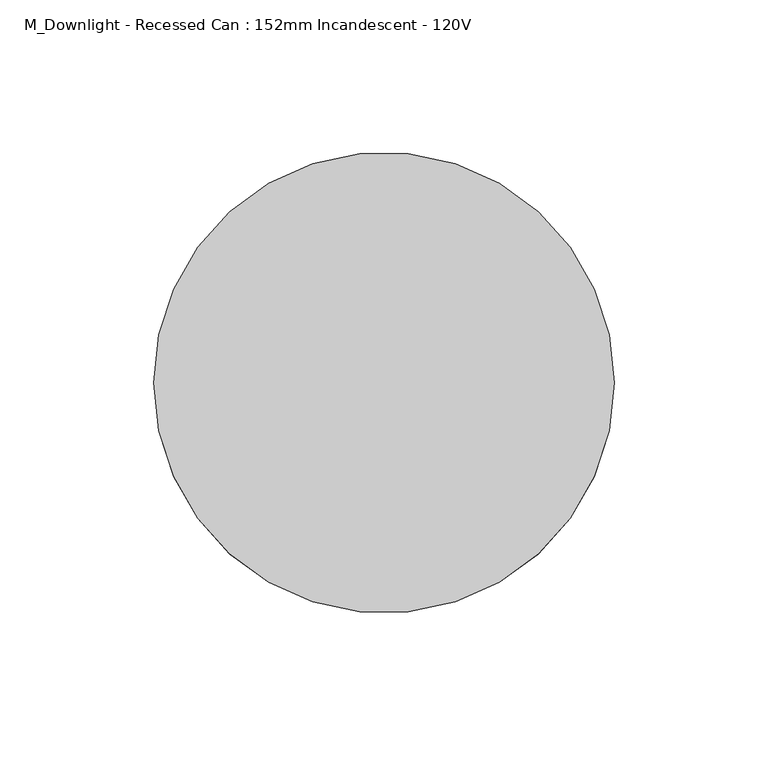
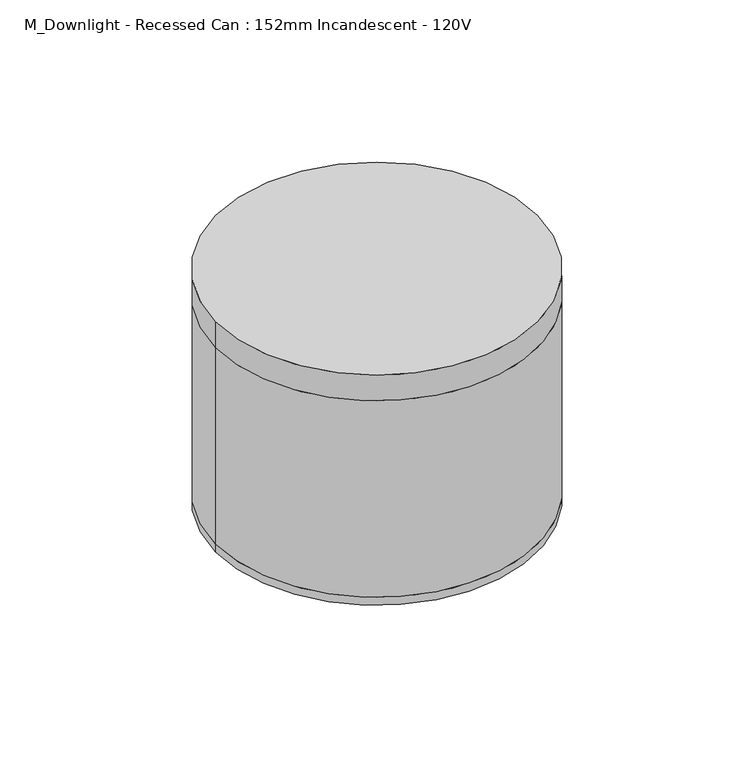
"""IFC4 building model written with IfcOpenShell, lengths in millimetres: light fixture geometry, M_Downlight - Recessed Can : 152mm Incandescent - 120V."""

import ifcopenshell
import ifcopenshell.guid

model = None  # the IFC model being written
_history = None  # IfcOwnerHistory: only IFC2X3 demands one
_inside = {}  # id of a spatial element -> (the spatial element, [elements in it])
_under = {}  # id of a project, library or spatial element -> (it, [spatial elements below it])
_declared = {}  # id of a project -> (the project, [libraries it declares])
_typed = {}  # id of a type object -> (the type object, [elements of that type])
_made_of = {}  # id of a material, layer set ... -> (it, [elements and type objects made of it])


def new_model(schema):
    """Start an empty IFC model of exactly this schema.

    Asked for "IFC4X3", IfcOpenShell would pick the latest addendum, in which some entities
    have other attributes; the version numbers below select the first issue.
    IFC2X3 requires an IfcOwnerHistory on every rooted entity: one is made here for all.
    """
    global model, _history
    if schema == "IFC4X3":
        model = ifcopenshell.file(schema_version=(4, 3, 0, 0))
    else:
        model = ifcopenshell.file(schema=schema)
    _inside.clear()
    _under.clear()
    _declared.clear()
    _typed.clear()
    _made_of.clear()
    _history = None
    if model.schema == "IFC2X3":
        org = make("IfcOrganization", Name="unknown")
        user = make(
            "IfcPersonAndOrganization",
            ThePerson=make("IfcPerson", FamilyName="unknown"),
            TheOrganization=org,
        )
        app = make(
            "IfcApplication",
            ApplicationDeveloper=org,
            Version="unknown",
            ApplicationFullName="unknown",
            ApplicationIdentifier="unknown",
        )
        _history = make(
            "IfcOwnerHistory",
            OwningUser=user,
            OwningApplication=app,
            ChangeAction="ADDED",
            CreationDate=0,
        )
    return model


def make(cls, **values):
    """One entity of the class cls with the attributes given. An attribute that is None is left unset."""
    return model.create_entity(
        cls, **{name: value for name, value in values.items() if value is not None}
    )


def rooted(cls, **values):
    """An entity with a GlobalId (a new one), such as an element, a storey or a relation."""
    return make(cls, GlobalId=ifcopenshell.guid.new(), OwnerHistory=_history, **values)


def si_unit(unit_type, name, prefix=None):
    """IfcSIUnit, for example si_unit("LENGTHUNIT", "METRE", prefix="MILLI")."""
    return make("IfcSIUnit", UnitType=unit_type, Prefix=prefix, Name=name)


def assignment(units):
    """IfcUnitAssignment: the units of a project."""
    return None if units is None else make("IfcUnitAssignment", Units=units)


def point(xyz):
    """IfcCartesianPoint."""
    return None if xyz is None else make("IfcCartesianPoint", Coordinates=xyz)


def direction(xyz):
    """IfcDirection."""
    return None if xyz is None else make("IfcDirection", DirectionRatios=xyz)


def frame(location, z_axis=None, x_axis=None):
    """IfcAxis2Placement3D, a coordinate frame: its origin and axes. An axis left out is left unset."""
    return make(
        "IfcAxis2Placement3D",
        Location=point(location),
        Axis=direction(z_axis),
        RefDirection=direction(x_axis),
    )


def frame_2d(location, x_axis=None):
    """IfcAxis2Placement2D, a coordinate frame in the plane: its origin and x axis."""
    return make(
        "IfcAxis2Placement2D", Location=point(location), RefDirection=direction(x_axis)
    )


def origin():
    """The frame at (0, 0, 0) with its axes left unset."""
    return frame((0.0, 0.0, 0.0))


def origin_2d():
    """The frame at (0, 0) in the plane with its x axis left unset."""
    return frame_2d((0.0, 0.0))


def place(relative_to, where):
    """IfcLocalPlacement: puts the frame where relative to a parent placement (None: the world)."""
    return make(
        "IfcLocalPlacement", PlacementRelTo=relative_to, RelativePlacement=where
    )


def context(
    kind, dimensions, precision=None, world=None, true_north=None, identifier=None
):
    """IfcGeometricRepresentationContext, for example the 3D "Model" context."""
    return make(
        "IfcGeometricRepresentationContext",
        ContextIdentifier=identifier,
        ContextType=kind,
        CoordinateSpaceDimension=dimensions,
        Precision=precision,
        WorldCoordinateSystem=world,
        TrueNorth=true_north,
    )


def project(units=None, contexts=None):
    """IfcProject with its units and contexts."""
    return rooted(
        "IfcProject",
        Name="project",
        RepresentationContexts=contexts,
        UnitsInContext=assignment(units),
    )


def spatial(cls, under=None, at=None, **own):
    """A site, building, storey or space (cls), placed at a placement, below another one or the project."""
    s = rooted(cls, ObjectPlacement=at, **own)
    if under is not None:
        _under.setdefault(under.id(), (under, []))[1].append(s)
    return s


def circle_curve(where, radius):
    """IfcCircle in the frame where."""
    return make("IfcCircle", Position=where, Radius=radius)


def trimmed(basis, trim1, trim2, sense, master):
    """IfcTrimmedCurve: the piece of a basis curve between two trims."""
    return make(
        "IfcTrimmedCurve",
        BasisCurve=basis,
        Trim1=trim1,
        Trim2=trim2,
        SenseAgreement=sense,
        MasterRepresentation=master,
    )


def segment(curve, same_sense, transition):
    """IfcCompositeCurveSegment."""
    return make(
        "IfcCompositeCurveSegment",
        Transition=transition,
        SameSense=same_sense,
        ParentCurve=curve,
    )


def composite_curve(segments, self_intersect=None):
    """IfcCompositeCurve: segments joined end to end."""
    return make("IfcCompositeCurve", Segments=segments, SelfIntersect=self_intersect)


def outline(outer, holes=None, kind="AREA"):
    """IfcArbitraryClosedProfileDef: a profile drawn as a closed curve; with holes, ...WithVoids."""
    if holes is None:
        return make("IfcArbitraryClosedProfileDef", ProfileType=kind, OuterCurve=outer)
    return make(
        "IfcArbitraryProfileDefWithVoids",
        ProfileType=kind,
        OuterCurve=outer,
        InnerCurves=holes,
    )


def extrude(swept, where, along, depth):
    """IfcExtrudedAreaSolid: the profile swept, set in the frame where, extruded along a direction by depth."""
    return make(
        "IfcExtrudedAreaSolid",
        SweptArea=swept,
        Position=where,
        ExtrudedDirection=direction(along),
        Depth=depth,
    )


def shape(context_of_items, identifier, shape_type, items):
    """IfcShapeRepresentation: the items that make up one representation, for example the "Body"."""
    return make(
        "IfcShapeRepresentation",
        ContextOfItems=context_of_items,
        RepresentationIdentifier=identifier,
        RepresentationType=shape_type,
        Items=items,
    )


def source(mapping_origin, context_of_items, identifier, shape_type, items):
    """IfcRepresentationMap: a shape defined once, which mapped items show again and again."""
    return make(
        "IfcRepresentationMap",
        MappingOrigin=mapping_origin,
        MappedRepresentation=shape(context_of_items, identifier, shape_type, items),
    )


def transform(
    local_origin,
    x_axis=None,
    y_axis=None,
    z_axis=None,
    scale=None,
    scale2=None,
    scale3=None,
    uniform=True,
):
    """IfcCartesianTransformationOperator3D, or its non-uniform kind. x_axis, y_axis, z_axis: its Axis1, 2, 3."""
    if uniform:
        return make(
            "IfcCartesianTransformationOperator3D",
            Axis1=direction(x_axis),
            Axis2=direction(y_axis),
            LocalOrigin=point(local_origin),
            Scale=scale,
            Axis3=direction(z_axis),
        )
    return make(
        "IfcCartesianTransformationOperator3DnonUniform",
        Axis1=direction(x_axis),
        Axis2=direction(y_axis),
        LocalOrigin=point(local_origin),
        Scale=scale,
        Axis3=direction(z_axis),
        Scale2=scale2,
        Scale3=scale3,
    )


def mapped(mapping_source, mapping_target):
    """IfcMappedItem: shows the shape of a source again, moved by a transform."""
    return make(
        "IfcMappedItem", MappingSource=mapping_source, MappingTarget=mapping_target
    )


def made_of(thing, what):
    """Note that an element or type object is made of a material, layer set ...; save() writes the relation."""
    if what is not None:
        _made_of.setdefault(what.id(), (what, []))[1].append(thing)
    return thing


def element(
    cls,
    number,
    at=None,
    inside=None,
    cuts=None,
    type_object=None,
    material=None,
    context=None,
    identifier="Body",
    shape_type=None,
    held_by="IfcProductDefinitionShape",
    body=None,
    shapes=None,
    **own,
):
    """One element of the class cls, such as IfcWall. Its Tag is "e" and its number.

    at: its placement. inside: the storey or other place that contains it. cuts: it is an
    opening in that element (IfcRelVoidsElement). A single representation is given by context,
    identifier, shape_type and body (its items); several are given by shapes. held_by: the class
    of the entity that holds the representations. save() writes the other relations.
    """
    e = rooted(cls, Tag="e%d" % number, ObjectPlacement=at, **own)
    if body is not None:
        shapes = [shape(context, identifier, shape_type, body)]
    if shapes is not None:
        e.Representation = make(held_by, Representations=shapes)
    if inside is not None:
        _inside.setdefault(inside.id(), (inside, []))[1].append(e)
    if cuts is not None:
        rooted(
            "IfcRelVoidsElement", RelatingBuildingElement=cuts, RelatedOpeningElement=e
        )
    if type_object is not None:
        _typed.setdefault(type_object.id(), (type_object, []))[1].append(e)
    return made_of(e, material)


def aggregate(whole, parts):
    """IfcRelAggregates: a whole, such as a stair, and the parts it consists of."""
    return rooted("IfcRelAggregates", RelatingObject=whole, RelatedObjects=parts)


def save(model, path):
    """Write the relations noted so far, then the file.

    IfcRelAggregates (storeys below a building ...), IfcRelContainedInSpatialStructure (elements
    in a storey), IfcRelDefinesByType, IfcRelAssociatesMaterial and IfcRelDeclares: one each for
    every whole, place, type object, material and project.
    """
    for whole, parts in _under.values():
        aggregate(whole, parts)
    for where, things in _inside.values():
        rooted(
            "IfcRelContainedInSpatialStructure",
            RelatedElements=things,
            RelatingStructure=where,
        )
    for kind, things in _typed.values():
        rooted("IfcRelDefinesByType", RelatedObjects=things, RelatingType=kind)
    for what, things in _made_of.values():
        rooted("IfcRelAssociatesMaterial", RelatedObjects=things, RelatingMaterial=what)
    for by, libraries in _declared.values():
        rooted("IfcRelDeclares", RelatingContext=by, RelatedDefinitions=libraries)
    model.write(path)


def m_downlight_recessed_can_152mm_incandescent_120v_aa052045(model_context):
    return source(origin(), model_context, "Body", "SweptSolid", [
        extrude(outline(composite_curve([segment(trimmed(circle_curve(origin_2d(), 75.0), [point((-75.0, 0.0))], [point((75.0, 0.0))], False, "CARTESIAN"), True, "CONTINUOUS"), segment(trimmed(circle_curve(origin_2d(), 75.0), [point((75.0, 0.0))], [point((-75.0, 0.0))], False, "CARTESIAN"), True, "CONTINUOUS")], self_intersect=False)), frame((0.0, 0.0, 2539.3367548), z_axis=(0.0, 0.0, 1.0), x_axis=(1.0, 0.0, 0.0)), (0.0, 0.0, 1.0), 12.7),
        extrude(outline(composite_curve([segment(trimmed(circle_curve(origin_2d(), 75.0), [point((-75.0, 0.0))], [point((75.0, 0.0))], False, "CARTESIAN"), True, "CONTINUOUS"), segment(trimmed(circle_curve(origin_2d(), 75.0), [point((75.0, 0.0))], [point((-75.0, 0.0))], False, "CARTESIAN"), True, "CONTINUOUS")], self_intersect=False), holes=[composite_curve([segment(trimmed(circle_curve(origin_2d(), 62.3), [point((-62.3, 0.0))], [point((62.3, 0.0))], True, "CARTESIAN"), True, "CONTINUOUS"), segment(trimmed(circle_curve(origin_2d(), 62.3), [point((62.3, 0.0))], [point((-62.3, 0.0))], True, "CARTESIAN"), True, "CONTINUOUS")], self_intersect=False)]), frame((0.0, 0.0, 2442.4), z_axis=(0.0, 0.0, 1.0), x_axis=(1.0, 0.0, 0.0)), (0.0, 0.0, 1.0), 96.9367548),
        extrude(outline(composite_curve([segment(trimmed(circle_curve(origin_2d(), 62.3), [point((-62.3, 0.0))], [point((62.3, 0.0))], False, "CARTESIAN"), True, "CONTINUOUS"), segment(trimmed(circle_curve(origin_2d(), 62.3), [point((62.3, 0.0))], [point((-62.3, 0.0))], False, "CARTESIAN"), True, "CONTINUOUS")], self_intersect=False)), frame((0.0, 0.0, 2453.794151), z_axis=(0.0, 0.0, 1.0), x_axis=(1.0, 0.0, 0.0)), (0.0, 0.0, 1.0), 26.9317812),
        extrude(outline(composite_curve([segment(trimmed(circle_curve(origin_2d(), 75.0), [point((-75.0, 0.0))], [point((75.0, 0.0))], False, "CARTESIAN"), True, "CONTINUOUS"), segment(trimmed(circle_curve(origin_2d(), 75.0), [point((75.0, 0.0))], [point((-75.0, 0.0))], False, "CARTESIAN"), True, "CONTINUOUS")], self_intersect=False)), frame((0.0, 0.0, 2438.4), z_axis=(0.0, 0.0, 1.0), x_axis=(1.0, 0.0, 0.0)), (0.0, 0.0, 1.0), 4.0),
    ])


if __name__ == "__main__":
    model = new_model("IFC4")
    model_context = context("Model", 3, world=origin())
    ifc_project = project(units=[si_unit("LENGTHUNIT", "METRE", prefix="MILLI")], contexts=[model_context])
    site = spatial("IfcSite", under=ifc_project)
    building = spatial("IfcBuilding", under=site)
    placement = place(None, origin())
    m_downlight_recessed_can_152mm_incandescent_120v_shape = m_downlight_recessed_can_152mm_incandescent_120v_aa052045(model_context)
    element("IfcLightFixture", 1, ObjectType="M_Downlight - Recessed Can : 152mm Incandescent - 120V", at=placement, inside=building, context=model_context, shape_type="MappedRepresentation", body=[
        mapped(m_downlight_recessed_can_152mm_incandescent_120v_shape, transform((0.0, 0.0, 0.0), x_axis=(1.0, 0.0, 0.0), y_axis=(0.0, 1.0, 0.0), z_axis=(0.0, 0.0, 1.0))),
    ])
    save(model, "model.ifc")
